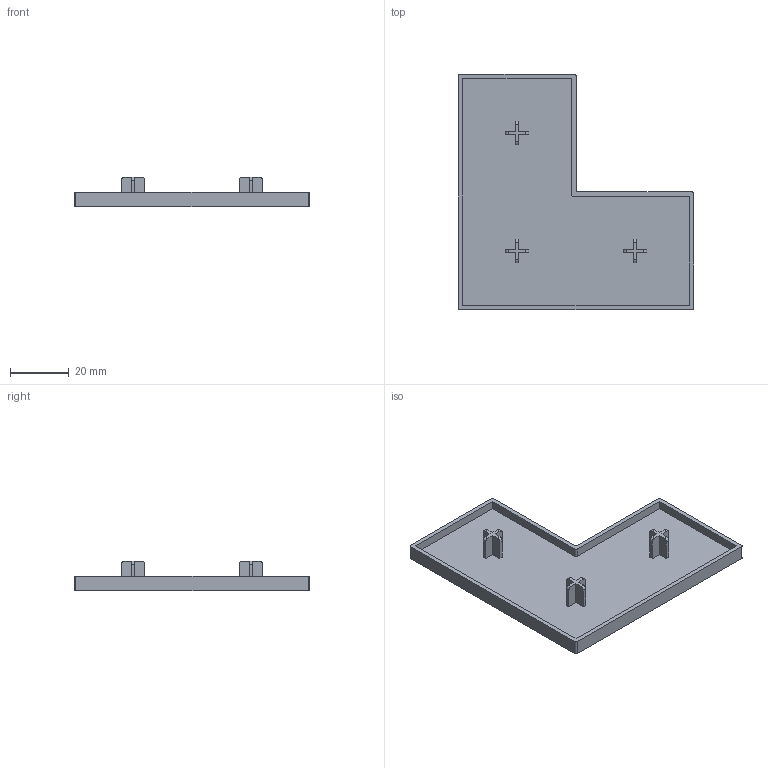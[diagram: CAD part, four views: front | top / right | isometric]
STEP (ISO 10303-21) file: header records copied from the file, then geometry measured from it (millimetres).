
FILE_DESCRIPTION(/* description */ (''),/* implementation_level */ '2;1');
FILE_NAME(/* name */ 'D:\cadd\new~產品型錄\端蓋\公模端蓋\AM8-U8840.stp',/* time_stamp */ '2016-12-09T17:11:33+08:00',/* author */ ('Owner'),/* organization */ (''),/* preprocessor_version */ 'ST-DEVELOPER v15.2',/* originating_system */ 'Autodesk Inventor 2014',/* authorisation */ '');
FILE_SCHEMA (('AUTOMOTIVE_DESIGN { 1 0 10303 214 3 1 1 }'));
Length unit declared in the file: millimetre
Products named in the file (1): AM8-U8840
Bounding box: 80 x 80 x 10 mm (x, y, z)
Volume: 11434.9 mm3; surface area: 12873.2 mm2
Topology: 1 solids, 1 shells, 73 faces, 256 edges, 244 vertices
Faces by surface type: plane 54, cylinder 19
Entity records: 2722 total; most frequent: CARTESIAN_POINT 574, DIRECTION 442, ORIENTED_EDGE 402, LINE 218, VECTOR 218, EDGE_CURVE 201, VERTEX_POINT 134, AXIS2_PLACEMENT_3D 112
